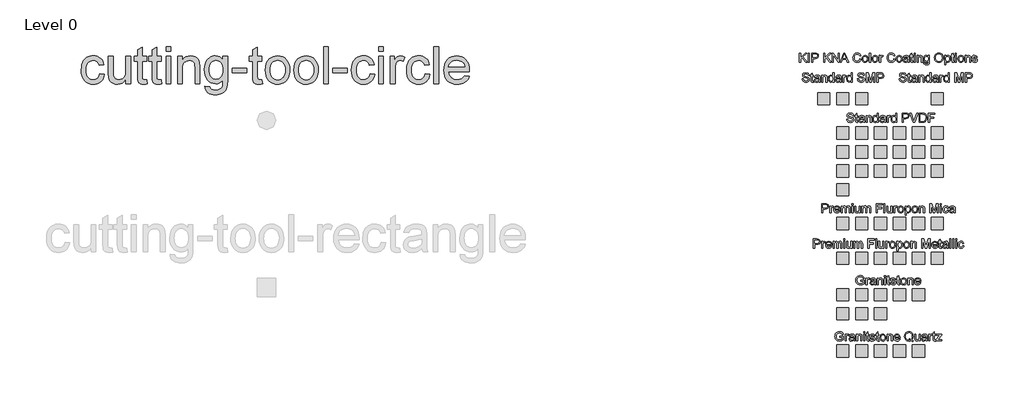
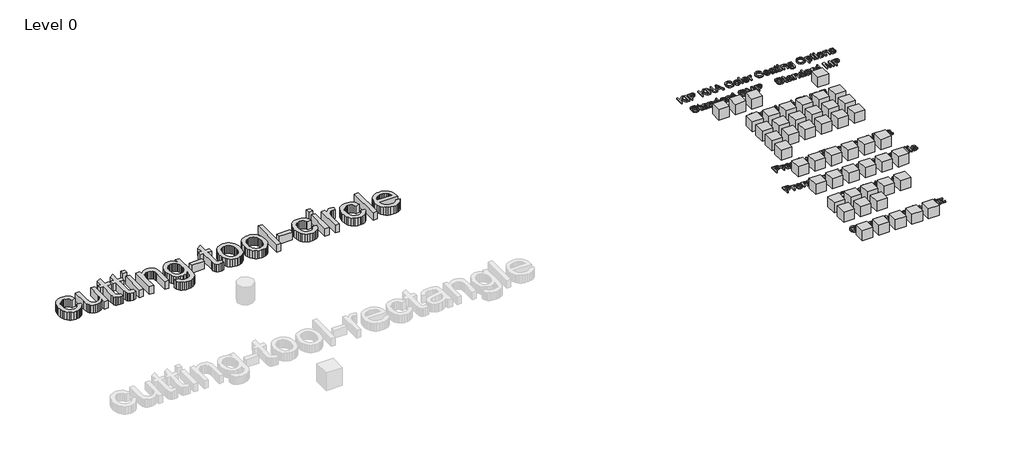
# One storey, part 5 of 5: 50 proxies.
"""IFC4 building model written with IfcOpenShell, lengths in millimetres."""

from ifc_helpers import new_model, si_unit, origin, origin_with_axes, place, context, project, spatial, polyline, outline, extrude, transform, mapped, element, save
from components import kna_color_range_kingspan_quadcore_4278cd54, kna_color_range_kingspan_quadcore_c5814d20, kna_color_range_kingspan_quadcore_91b79b7c, ks_color_sample_ks_color_sample_0243efec

model = new_model("IFC4")

# Units and contexts
model_context = context("Model", 3, world=origin())
ifc_project = project(units=[si_unit("LENGTHUNIT", "METRE", prefix="MILLI")], contexts=[model_context])

# Site, building, storey
site = spatial("IfcSite", under=ifc_project)
building = spatial("IfcBuilding", under=site)
storey = spatial("IfcBuildingStorey", under=building, Name="Level 0", Elevation=0.0)

# Proxies
placement = place(None, origin())
element("IfcBuildingElementProxy", 1, Name="24\" Arial", ObjectType="24\" Arial", at=placement, inside=storey, context=model_context, shape_type="SweptSolid", body=[
    extrude(outline(polyline([(309.6160228, 14049.1798654), (385.7577963, 14039.6621437), (377.4762631, 14003.7336738), (364.5288155, 13971.9413232), (346.9154536, 13944.2850918), (324.6361773, 13920.7649798), (298.6297464, 13901.9944339), (269.8349204, 13888.5869012), (238.2516994, 13880.5423815), (203.8800834, 13877.860875), (161.1758136, 13881.6019717), (122.8865025, 13892.8252616), (89.0121503, 13911.5307449), (59.5527568, 13937.7184216), (35.707332, 13970.895675), (18.6748858, 14010.5698889), (8.455418, 14056.7410633), (5.0489287, 14109.409198), (10.8673797, 14177.1671971), (18.1404434, 14207.6582967), (28.3227325, 14235.8907964), (41.4839571, 14261.2977224), (57.6938268, 14283.3121011), (76.9523418, 14301.9339326), (99.259502, 14317.1632167), (123.6068379, 14329.0046009), (148.98588, 14337.4627325), (175.3966282, 14342.5376115), (202.8390826, 14344.2292378), (236.6204883, 14341.9055753), (267.1766505, 14334.9345877), (294.5075691, 14323.3162751), (318.6132441, 14307.0506374), (339.0847109, 14286.5094607), (355.5130049, 14262.064531), (367.8981262, 14233.7158482), (376.2400746, 14201.4634124), (300.0983011, 14191.9456908), (286.2864511, 14225.1647702), (264.7786308, 14248.9776637), (236.7645554, 14263.3100141), (203.4339402, 14268.0874643), (177.5622817, 14265.7359178), (154.2280626, 14258.6812784), (133.4312831, 14246.923546), (115.171943, 14230.4627207), (100.3051501, 14208.9177218), (89.6860124, 14181.9074687), (83.3145298, 14149.4319613), (81.1907022, 14111.4911996), (83.2680565, 14072.978817), (89.5001194, 14040.1268762), (99.8868909, 14012.9353774), (114.428371, 13991.4043205), (132.3252197, 13975.041089), (152.7780972, 13963.3530665), (175.7870035, 13956.340253), (201.3519386, 13954.0026485), (240.7798442, 13959.8396888), (257.8308798, 13967.1359891), (273.1066373, 13977.3508095), (286.1795626, 13990.5956859), (296.622102, 14006.982154), (304.4342554, 14026.5102138), (309.6160228, 14049.1798654)])), origin_with_axes(), (0.0, 0.0, 1.0), 152.4),
    extrude(outline(polyline([(737.9134988, 13887.3785967), (737.9134988, 13964.2639422), (710.364156, 13926.4626003), (678.2790239, 13899.4616418), (641.6581025, 13883.2610667), (600.5013919, 13877.860875), (563.4157381, 13881.6530922), (528.8954077, 13893.0297439), (499.933278, 13910.1319001), (479.5222264, 13931.1006307), (465.7847336, 13956.5679719), (456.8432802, 13987.16596), (452.3818481, 14057.9540151), (452.3818481, 14334.7115161), (528.5236217, 14334.7115161), (528.5236217, 14093.7941858), (529.6761583, 14045.6107198), (533.1337681, 14016.1652683), (544.2315803, 13990.2703732), (563.2484344, 13970.5843043), (588.9202579, 13958.1480625), (619.9829785, 13954.0026485), (652.8302719, 13958.241009), (683.5583851, 13970.9560903), (708.8956013, 13990.9767666), (725.5702035, 14017.1319119), (734.827675, 14052.9534933), (737.9134988, 14101.9734779), (737.9134988, 14334.7115161), (814.0552723, 14334.7115161), (814.0552723, 13887.3785967), (737.9134988, 13887.3785967)])), origin_with_axes(), (0.0, 0.0, 1.0), 152.4),
    extrude(outline(polyline([(1080.5514797, 13950.8796461), (1090.0692013, 13885.1478807), (1059.9173565, 13879.6826264), (1033.1115856, 13877.860875), (996.5650215, 13881.021056), (969.3131074, 13890.5015991), (950.0545924, 13905.1127891), (937.4882255, 13923.6649106), (930.5730058, 13955.5269711), (928.2679326, 14010.0679778), (928.2679326, 14258.5697426), (871.1616025, 14258.5697426), (871.1616025, 14334.7115161), (928.2679326, 14334.7115161), (928.2679326, 14443.4217435), (1004.4097061, 14488.1847783), (1004.4097061, 14334.7115161), (1080.5514797, 14334.7115161), (1080.5514797, 14258.5697426), (1004.4097061, 14258.5697426), (1004.4097061, 14012.2986939), (1008.424995, 13973.0380919), (1021.4375051, 13959.1332954), (1032.4237815, 13955.2853102), (1047.3881681, 13954.0026485), (1080.5514797, 13950.8796461)])), origin_with_axes(), (0.0, 0.0, 1.0), 152.4),
    extrude(outline(polyline([(1318.4945219, 13950.8796461), (1328.0122436, 13885.1478807), (1297.8603987, 13879.6826264), (1271.0546278, 13877.860875), (1234.5080637, 13881.021056), (1207.2561496, 13890.5015991), (1187.9976347, 13905.1127891), (1175.4312677, 13923.6649106), (1168.5160481, 13955.5269711), (1166.2109749, 14010.0679778), (1166.2109749, 14258.5697426), (1109.1046447, 14258.5697426), (1109.1046447, 14334.7115161), (1166.2109749, 14334.7115161), (1166.2109749, 14443.4217435), (1242.3527484, 14488.1847783), (1242.3527484, 14334.7115161), (1318.4945219, 14334.7115161), (1318.4945219, 14258.5697426), (1242.3527484, 14258.5697426), (1242.3527484, 14012.2986939), (1246.3680372, 13973.0380919), (1259.3805473, 13959.1332954), (1270.3668237, 13955.2853102), (1285.3312104, 13954.0026485), (1318.4945219, 13950.8796461)])), origin_with_axes(), (0.0, 0.0, 1.0), 152.4),
    extrude(outline(polyline([(1394.6362954, 14420.3710113), (1394.6362954, 14496.5127848), (1470.7780689, 14496.5127848), (1470.7780689, 14420.3710113), (1394.6362954, 14420.3710113)])), origin_with_axes(), (0.0, 0.0, 1.0), 152.4),
    extrude(outline(polyline([(1394.6362954, 13887.3785967), (1394.6362954, 14334.7115161), (1470.7780689, 14334.7115161), (1470.7780689, 13887.3785967), (1394.6362954, 13887.3785967)])), origin_with_axes(), (0.0, 0.0, 1.0), 152.4),
    extrude(outline(polyline([(1584.9907292, 13887.3785967), (1584.9907292, 14334.7115161), (1661.1325027, 14334.7115161), (1661.1325027, 14272.2514675), (1687.5850769, 14303.741742), (1719.3541909, 14326.2347952), (1756.4398447, 14339.7306271), (1798.8420384, 14344.2292378), (1836.3738355, 14340.6043243), (1870.7454515, 14329.7295837), (1899.4101524, 14312.9620349), (1919.821204, 14291.6586969), (1933.6702326, 14265.8753376), (1942.6488646, 14235.6677248), (1946.6641534, 14162.0540961), (1946.6641534, 13887.3785967), (1870.5223799, 13887.3785967), (1870.5223799, 14151.7928024), (1868.3288425, 14191.1649401), (1861.7482302, 14219.1604262), (1849.6094172, 14239.2182811), (1830.7412775, 14254.7775253), (1806.556598, 14264.7599795), (1778.4681654, 14268.0874643), (1755.3477233, 14266.2192396), (1733.8724343, 14260.6145656), (1714.0422983, 14251.2734423), (1695.8573154, 14238.1958696), (1680.6652099, 14219.8947036), (1669.8137059, 14194.8828002), (1663.3028035, 14163.1601594), (1661.1325027, 14124.7267813), (1661.1325027, 13887.3785967), (1584.9907292, 13887.3785967)])), origin_with_axes(), (0.0, 0.0, 1.0), 152.4),
    extrude(outline(polyline([(2032.3236486, 13849.3077099), (2108.4654221, 13839.7899882), (2116.8677858, 13815.995684), (2133.1520128, 13799.6370999), (2165.1627877, 13786.9220185), (2207.0630703, 13782.6836581), (2251.7517479, 13787.4796975), (2269.8019584, 13793.4747469), (2284.9894166, 13801.8678159), (2308.0401488, 13824.9185481), (2322.1680169, 13855.7024292), (2326.2948416, 13888.4567761), (2327.373021, 13944.4849268), (2302.0358049, 13919.5009074), (2273.7614793, 13901.6551792), (2242.5500443, 13890.9477423), (2208.4014999, 13887.3785967), (2166.654579, 13891.5333053), (2129.8988852, 13903.997431), (2098.1344186, 13924.770974), (2071.361179, 13953.8539341), (2050.1182562, 13988.7460505), (2034.9447399, 14026.9470624), (2025.8406302, 14068.4569697), (2022.8059269, 14113.2757724), (2028.2525919, 14174.7505881), (2044.5925867, 14231.2806499), (2056.7035158, 14256.7712278), (2071.2496432, 14279.1852765), (2088.2309689, 14298.522796), (2107.6474929, 14314.7837863), (2129.1878445, 14327.6661713), (2152.5406529, 14336.8678749), (2177.705918, 14342.3888971), (2204.6836398, 14344.2292378), (2240.2914443, 14340.0652346), (2272.6089427, 14327.5732248), (2301.6361349, 14306.7532086), (2327.373021, 14277.605186), (2327.373021, 14334.7115161), (2403.5147945, 14334.7115161), (2403.5147945, 13948.5002157), (2398.3097905, 13859.3273427), (2391.8035354, 13826.1593839), (2382.6947783, 13800.6037435), (2370.7650949, 13779.9928569), (2355.796061, 13761.6591596), (2337.7876764, 13745.6026516), (2316.7399413, 13731.8233328), (2292.8666325, 13720.7626992), (2266.3815271, 13712.8622466), (2237.284625, 13708.1219751), (2205.5759262, 13706.5418846), (2168.2718481, 13708.7679533), (2134.7321033, 13715.4461594), (2104.9566917, 13726.5765028), (2078.9456135, 13742.1589837), (2057.9350569, 13762.2121913), (2043.1612106, 13786.7547148), (2034.6240745, 13815.7865544), (2032.3236486, 13849.3077099)]), holes=[polyline([(2098.9477004, 14118.4807765), (2100.9785815, 14080.8327963), (2107.0712246, 14048.6407757), (2117.2256298, 14021.9047147), (2131.4417972, 14000.6246134), (2148.725199, 13984.391507), (2168.0813078, 13972.796431), (2189.5101236, 13965.8393854), (2213.0116463, 13963.5203702), (2236.2808028, 13965.8254434), (2257.6073774, 13972.7406631), (2276.9913702, 13984.2660292), (2294.4327811, 14000.4015418), (2308.844136, 14021.4725135), (2319.137961, 14047.8042572), (2325.314256, 14079.3967728), (2327.373021, 14116.2500604), (2325.2538408, 14151.5650834), (2318.8963001, 14182.2606654), (2308.300399, 14208.3368062), (2293.4661375, 14229.7935059), (2275.6482933, 14246.5471127), (2256.1016441, 14258.5139747), (2234.8261901, 14265.6940919), (2211.8219311, 14268.0874643), (2189.2034001, 14265.7312705), (2168.341558, 14258.6626891), (2149.2364047, 14246.8817201), (2131.8879404, 14230.3883635), (2117.4765854, 14209.2569765), (2107.1827604, 14183.5619164), (2101.0064654, 14153.303183), (2098.9477004, 14118.4807765)])]), origin_with_axes(), (0.0, 0.0, 1.0), 152.4),
    extrude(outline(polyline([(2479.656568, 14068.2153088), (2479.656568, 14144.3570823), (2717.5996103, 14144.3570823), (2717.5996103, 14068.2153088), (2479.656568, 14068.2153088)])), origin_with_axes(), (0.0, 0.0, 1.0), 152.4),
    extrude(outline(polyline([(2965.0603742, 13950.8796461), (2974.5780959, 13885.1478807), (2944.426251, 13879.6826264), (2917.6204802, 13877.860875), (2881.073916, 13881.021056), (2853.822002, 13890.5015991), (2834.563487, 13905.1127891), (2821.9971201, 13923.6649106), (2815.0819004, 13955.5269711), (2812.7768272, 14010.0679778), (2812.7768272, 14258.5697426), (2755.670497, 14258.5697426), (2755.670497, 14334.7115161), (2812.7768272, 14334.7115161), (2812.7768272, 14443.4217435), (2888.9186007, 14488.1847783), (2888.9186007, 14334.7115161), (2965.0603742, 14334.7115161), (2965.0603742, 14258.5697426), (2888.9186007, 14258.5697426), (2888.9186007, 14012.2986939), (2892.9338895, 13973.0380919), (2905.9463996, 13959.1332954), (2916.932676, 13955.2853102), (2931.8970627, 13954.0026485), (2965.0603742, 13950.8796461)])), origin_with_axes(), (0.0, 0.0, 1.0), 152.4),
    extrude(outline(polyline([(3022.1667043, 14111.0450564), (3026.2842343, 14168.9786104), (3038.6368243, 14218.900176), (3059.2244742, 14260.8097533), (3088.0471842, 14294.7073421), (3117.0650817, 14316.3731715), (3149.0944459, 14331.8487639), (3184.1352768, 14341.1341193), (3222.1875742, 14344.2292378), (3264.1947453, 14340.4602572), (3302.1773329, 14329.1533153), (3336.135337, 14310.3084123), (3366.0687576, 14283.925548), (3390.4997453, 14250.8970089), (3407.9504509, 14212.1150814), (3418.4208742, 14167.5797656), (3421.9110153, 14117.2910613), (3420.3681034, 14076.5340206), (3415.7393676, 14040.3685371), (3408.0248081, 14008.7946108), (3397.2244247, 13981.8122416), (3383.4729899, 13958.5059065), (3366.9052761, 13937.9600825), (3347.5212833, 13920.1747695), (3325.3210116, 13905.1499677), (3301.1688633, 13893.2109896), (3275.929241, 13884.6831482), (3249.6021447, 13879.5664433), (3222.1875742, 13877.860875), (3179.5669562, 13881.6159136), (3141.231172, 13892.8810295), (3107.1802214, 13911.6562227), (3077.4141045, 13937.9414932), (3053.2433669, 13971.2906977), (3035.9785544, 14011.2576931), (3025.6196668, 14057.8424793), (3022.1667043, 14111.0450564)]), holes=[polyline([(3098.3084779, 14111.1937708), (3100.5113099, 14074.2614787), (3107.1198061, 14042.283235), (3118.1339665, 14015.2590399), (3133.553791, 13993.1888933), (3152.3103949, 13976.0449112), (3173.3348934, 13963.7992097), (3196.6272865, 13956.4517888), (3222.1875742, 13954.0026485), (3247.6177369, 13956.4657308), (3270.8171835, 13963.8549776), (3291.7859141, 13976.170389), (3310.5239287, 13993.4119649), (3325.9437532, 14015.7005358), (3336.9579135, 14043.1569322), (3343.5664097, 14075.781154), (3345.7692418, 14113.5732012), (3343.5524677, 14149.3343674), (3336.9021456, 14180.4760925), (3325.8182754, 14206.9983766), (3310.3008571, 14228.9012195), (3291.4931326, 14246.0452016), (3270.538344, 14258.2909031), (3247.4364912, 14265.638324), (3222.1875742, 14268.0874643), (3196.6272865, 14265.6476186), (3173.3348934, 14258.3280817), (3152.3103949, 14246.1288534), (3133.553791, 14229.0499339), (3118.1339665, 14207.0448498), (3107.1198061, 14180.0671279), (3100.5113099, 14148.1167683), (3098.3084779, 14111.1937708)])]), origin_with_axes(), (0.0, 0.0, 1.0), 152.4),
    extrude(outline(polyline([(3488.5350671, 14111.0450564), (3492.6525971, 14168.9786104), (3505.0051871, 14218.900176), (3525.592837, 14260.8097533), (3554.415547, 14294.7073421), (3583.4334445, 14316.3731715), (3615.4628087, 14331.8487639), (3650.5036396, 14341.1341193), (3688.555937, 14344.2292378), (3730.5631081, 14340.4602572), (3768.5456957, 14329.1533153), (3802.5036998, 14310.3084123), (3832.4371204, 14283.925548), (3856.8681081, 14250.8970089), (3874.3188137, 14212.1150814), (3884.789237, 14167.5797656), (3888.2793781, 14117.2910613), (3886.7364662, 14076.5340206), (3882.1077304, 14040.3685371), (3874.3931709, 14008.7946108), (3863.5927875, 13981.8122416), (3849.8413527, 13958.5059065), (3833.2736389, 13937.9600825), (3813.8896461, 13920.1747695), (3791.6893744, 13905.1499677), (3767.5372261, 13893.2109896), (3742.2976038, 13884.6831482), (3715.9705074, 13879.5664433), (3688.555937, 13877.860875), (3645.935319, 13881.6159136), (3607.5995348, 13892.8810295), (3573.5485842, 13911.6562227), (3543.7824673, 13937.9414932), (3519.6117297, 13971.2906977), (3502.3469172, 14011.2576931), (3491.9880296, 14057.8424793), (3488.5350671, 14111.0450564)]), holes=[polyline([(3564.6768406, 14111.1937708), (3566.8796727, 14074.2614787), (3573.4881689, 14042.283235), (3584.5023293, 14015.2590399), (3599.9221538, 13993.1888933), (3618.6787577, 13976.0449112), (3639.7032562, 13963.7992097), (3662.9956493, 13956.4517888), (3688.555937, 13954.0026485), (3713.9860997, 13956.4657308), (3737.1855463, 13963.8549776), (3758.1542769, 13976.170389), (3776.8922914, 13993.4119649), (3792.3121159, 14015.7005358), (3803.3262763, 14043.1569322), (3809.9347725, 14075.781154), (3812.1376046, 14113.5732012), (3809.9208305, 14149.3343674), (3803.2705084, 14180.4760925), (3792.1866382, 14206.9983766), (3776.6692198, 14228.9012195), (3757.8614954, 14246.0452016), (3736.9067068, 14258.2909031), (3713.804854, 14265.638324), (3688.555937, 14268.0874643), (3662.9956493, 14265.6476186), (3639.7032562, 14258.3280817), (3618.6787577, 14246.1288534), (3599.9221538, 14229.0499339), (3584.5023293, 14207.0448498), (3573.4881689, 14180.0671279), (3566.8796727, 14148.1167683), (3564.6768406, 14111.1937708)])]), origin_with_axes(), (0.0, 0.0, 1.0), 152.4),
    extrude(outline(polyline([(3973.9388733, 13887.3785967), (3973.9388733, 14496.5127848), (4050.0806468, 14496.5127848), (4050.0806468, 13887.3785967), (3973.9388733, 13887.3785967)])), origin_with_axes(), (0.0, 0.0, 1.0), 152.4),
    extrude(outline(polyline([(4126.2224203, 14068.2153088), (4126.2224203, 14144.3570823), (4364.1654626, 14144.3570823), (4364.1654626, 14068.2153088), (4126.2224203, 14068.2153088)])), origin_with_axes(), (0.0, 0.0, 1.0), 152.4),
    extrude(outline(polyline([(4735.3566085, 14049.1798654), (4811.498382, 14039.6621437), (4803.2168488, 14003.7336738), (4790.2694012, 13971.9413232), (4772.6560393, 13944.2850918), (4750.376763, 13920.7649798), (4724.3703321, 13901.9944339), (4695.5755061, 13888.5869012), (4663.9922851, 13880.5423815), (4629.6206691, 13877.860875), (4586.9163993, 13881.6019717), (4548.6270882, 13892.8252616), (4514.752736, 13911.5307449), (4485.2933425, 13937.7184216), (4461.4479177, 13970.895675), (4444.4154714, 14010.5698889), (4434.1960037, 14056.7410633), (4430.7895144, 14109.409198), (4436.6079654, 14177.1671971), (4443.8810291, 14207.6582967), (4454.0633182, 14235.8907964), (4467.2245427, 14261.2977224), (4483.4344125, 14283.3121011), (4502.6929275, 14301.9339326), (4525.0000877, 14317.1632167), (4549.3474236, 14329.0046009), (4574.7264657, 14337.4627325), (4601.1372139, 14342.5376115), (4628.5796683, 14344.2292378), (4662.361074, 14341.9055753), (4692.9172362, 14334.9345877), (4720.2481548, 14323.3162751), (4744.3538298, 14307.0506374), (4764.8252966, 14286.5094607), (4781.2535906, 14262.064531), (4793.6387118, 14233.7158482), (4801.9806603, 14201.4634124), (4725.8388868, 14191.9456908), (4712.0270368, 14225.1647702), (4690.5192165, 14248.9776637), (4662.5051411, 14263.3100141), (4629.1745259, 14268.0874643), (4603.3028674, 14265.7359178), (4579.9686483, 14258.6812784), (4559.1718687, 14246.923546), (4540.9125286, 14230.4627207), (4526.0457358, 14208.9177218), (4515.4265981, 14181.9074687), (4509.0551155, 14149.4319613), (4506.9312879, 14111.4911996), (4509.0086422, 14072.978817), (4515.2407051, 14040.1268762), (4525.6274766, 14012.9353774), (4540.1689566, 13991.4043205), (4558.0658054, 13975.041089), (4578.5186829, 13963.3530665), (4601.5275892, 13956.340253), (4627.0925243, 13954.0026485), (4666.5204299, 13959.8396888), (4683.5714655, 13967.1359891), (4698.8472229, 13977.3508095), (4711.9201483, 13990.5956859), (4722.3626877, 14006.982154), (4730.1748411, 14026.5102138), (4735.3566085, 14049.1798654)])), origin_with_axes(), (0.0, 0.0, 1.0), 152.4),
    extrude(outline(polyline([(4878.1224338, 14420.3710113), (4878.1224338, 14496.5127848), (4954.2642073, 14496.5127848), (4954.2642073, 14420.3710113), (4878.1224338, 14420.3710113)])), origin_with_axes(), (0.0, 0.0, 1.0), 152.4),
    extrude(outline(polyline([(4878.1224338, 13887.3785967), (4878.1224338, 14334.7115161), (4954.2642073, 14334.7115161), (4954.2642073, 13887.3785967), (4878.1224338, 13887.3785967)])), origin_with_axes(), (0.0, 0.0, 1.0), 152.4),
    extrude(outline(polyline([(5068.4768676, 13887.3785967), (5068.4768676, 14334.7115161), (5135.1009194, 14334.7115161), (5135.1009194, 14268.5336075), (5159.7131529, 14306.901923), (5182.3920991, 14329.5065121), (5205.1454025, 14340.5485564), (5229.9807075, 14344.2292378), (5267.9028799, 14338.3550189), (5306.4199099, 14320.7323624), (5280.9897472, 14252.4724521), (5254.221155, 14264.1837112), (5227.4525627, 14268.0874643), (5204.7178486, 14264.3324256), (5184.3997435, 14253.0673097), (5167.9853914, 14235.1472244), (5156.9619364, 14211.4272773), (5147.704465, 14168.8949585), (5144.6186411, 14122.4960653), (5144.6186411, 13887.3785967), (5068.4768676, 13887.3785967)])), origin_with_axes(), (0.0, 0.0, 1.0), 152.4),
    extrude(outline(polyline([(5639.540169, 14049.1798654), (5715.6819425, 14039.6621437), (5707.4004093, 14003.7336738), (5694.4529617, 13971.9413232), (5676.8395998, 13944.2850918), (5654.5603235, 13920.7649798), (5628.5538926, 13901.9944339), (5599.7590666, 13888.5869012), (5568.1758456, 13880.5423815), (5533.8042296, 13877.860875), (5491.0999598, 13881.6019717), (5452.8106487, 13892.8252616), (5418.9362965, 13911.5307449), (5389.476903, 13937.7184216), (5365.6314782, 13970.895675), (5348.5990319, 14010.5698889), (5338.3795642, 14056.7410633), (5334.9730749, 14109.409198), (5340.7915259, 14177.1671971), (5348.0645896, 14207.6582967), (5358.2468787, 14235.8907964), (5371.4081033, 14261.2977224), (5387.617973, 14283.3121011), (5406.876488, 14301.9339326), (5429.1836482, 14317.1632167), (5453.5309841, 14329.0046009), (5478.9100262, 14337.4627325), (5505.3207744, 14342.5376115), (5532.7632288, 14344.2292378), (5566.5446345, 14341.9055753), (5597.1007967, 14334.9345877), (5624.4317153, 14323.3162751), (5648.5373903, 14307.0506374), (5669.0088571, 14286.5094607), (5685.4371511, 14262.064531), (5697.8222724, 14233.7158482), (5706.1642208, 14201.4634124), (5630.0224473, 14191.9456908), (5616.2105973, 14225.1647702), (5594.702777, 14248.9776637), (5566.6887016, 14263.3100141), (5533.3580864, 14268.0874643), (5507.4864279, 14265.7359178), (5484.1522088, 14258.6812784), (5463.3554293, 14246.923546), (5445.0960892, 14230.4627207), (5430.2292963, 14208.9177218), (5419.6101586, 14181.9074687), (5413.238676, 14149.4319613), (5411.1148484, 14111.4911996), (5413.1922027, 14072.978817), (5419.4242656, 14040.1268762), (5429.8110371, 14012.9353774), (5444.3525172, 13991.4043205), (5462.2493659, 13975.041089), (5482.7022434, 13963.3530665), (5505.7111497, 13956.340253), (5531.2760848, 13954.0026485), (5570.7039904, 13959.8396888), (5587.755026, 13967.1359891), (5603.0307834, 13977.3508095), (5616.1037088, 13990.5956859), (5626.5462482, 14006.982154), (5634.3584016, 14026.5102138), (5639.540169, 14049.1798654)])), origin_with_axes(), (0.0, 0.0, 1.0), 152.4),
    extrude(outline(polyline([(5782.3059943, 13887.3785967), (5782.3059943, 14496.5127848), (5858.4477679, 14496.5127848), (5858.4477679, 13887.3785967), (5782.3059943, 13887.3785967)])), origin_with_axes(), (0.0, 0.0, 1.0), 152.4),
    extrude(outline(polyline([(6285.8529575, 14020.6267003), (6360.507587, 14011.1089787), (6349.0612254, 13981.2080893), (6333.6088696, 13954.8577563), (6314.1505197, 13932.0579797), (6290.6861755, 13912.8087593), (6263.4574981, 13897.5190599), (6232.7061483, 13886.5978461), (6198.4321261, 13880.0451178), (6160.6354315, 13877.860875), (6113.3907251, 13881.6298556), (6071.2952549, 13892.9367974), (6034.3490208, 13911.7817005), (6002.5520228, 13938.1645648), (5976.9824404, 13971.3511129), (5958.718453, 14010.6070675), (5947.7600605, 14055.9324287), (5944.1072631, 14107.3271964), (5947.7972391, 14160.4647109), (5958.8671674, 14207.3004527), (5977.3170478, 14247.8344217), (6003.1468804, 14282.066618), (6034.8602265, 14309.2627642), (6070.9606475, 14328.6885828), (6111.4481432, 14340.3440741), (6156.3227139, 14344.2292378), (6199.7519664, 14340.3533687), (6239.0265103, 14328.7257614), (6274.1463457, 14309.346416), (6305.1114725, 14282.2153324), (6330.3882734, 14248.0574933), (6348.4431312, 14207.5978815), (6359.2760458, 14160.8364969), (6362.8870174, 14107.7733396), (6362.4408742, 14087.2507522), (6020.2490366, 14087.2507522), (6024.659348, 14056.866541), (6033.4288504, 14030.2559578), (6046.5575436, 14007.4190026), (6064.0454278, 13988.3556752), (6084.9258592, 13973.326226), (6108.2321943, 13962.5909052), (6133.9644331, 13956.1497127), (6162.1225755, 13954.0026485), (6202.6472499, 13957.9807588), (6236.777205, 13969.9150895), (6264.5124409, 13990.5492127), (6285.8529575, 14020.6267003)]), holes=[polyline([(6020.2490366, 14163.3925257), (6286.7452439, 14163.3925257), (6276.4467716, 14203.6197713), (6267.5889701, 14219.4392657), (6256.2587916, 14232.3960079), (6235.4945433, 14248.0110201), (6211.8675428, 14259.1646002), (6185.37779, 14265.8567483), (6156.0252851, 14268.0874643), (6129.2520455, 14266.3075388), (6104.7002273, 14260.9677623), (6082.3698304, 14252.0681348), (6062.260855, 14239.6086564), (6045.3864177, 14224.1655953), (6032.7596356, 14206.3152198), (6024.3805085, 14186.0575299), (6020.2490366, 14163.3925257)])]), origin_with_axes(), (0.0, 0.0, 1.0), 152.4),
])
kna_color_range_kingspan_quadcore_shape = kna_color_range_kingspan_quadcore_4278cd54(model_context)
kna_color_range_kingspan_quadcore_2_shape = kna_color_range_kingspan_quadcore_c5814d20(model_context)
kna_color_range_kingspan_quadcore_3_shape = kna_color_range_kingspan_quadcore_91b79b7c(model_context)
element("IfcBuildingElementProxy", 2, Name="KNA_Color Range : Kingspan Quadcore", ObjectType="KNA_Color Range : Kingspan Quadcore", at=placement, inside=storey, context=model_context, shape_type="MappedRepresentation", body=[
    mapped(kna_color_range_kingspan_quadcore_shape, transform((13221.5853815, 13539.2290821, 0.0), x_axis=(1.0, 0.0, 0.0), y_axis=(0.0, 1.0, 0.0), z_axis=(0.0, 0.0, 1.0))),
    mapped(kna_color_range_kingspan_quadcore_2_shape, transform((13221.5853815, 13539.2290821, 0.0), x_axis=(1.0, 0.0, 0.0), y_axis=(0.0, 1.0, 0.0), z_axis=(0.0, 0.0, 1.0))),
    mapped(kna_color_range_kingspan_quadcore_3_shape, transform((13221.5853815, 13539.2290821, 0.0), x_axis=(1.0, 0.0, 0.0), y_axis=(0.0, 1.0, 0.0), z_axis=(0.0, 0.0, 1.0))),
])
ks_color_sample_ks_color_sample_shape = ks_color_sample_ks_color_sample_0243efec(model_context)
element("IfcBuildingElementProxy", 3, Name="KS_Color Sample : KS_Color Sample", ObjectType="KS_Color Sample : KS_Color Sample", at=placement, inside=storey, context=model_context, shape_type="MappedRepresentation", body=[
    mapped(ks_color_sample_ks_color_sample_shape, transform((12166.5853815, 13639.2290821, 0.0), x_axis=(1.0, 0.0, 0.0), y_axis=(0.0, 1.0, 0.0), z_axis=(0.0, 0.0, 1.0))),
])
element("IfcBuildingElementProxy", 4, Name="KS_Color Sample : KS_Color Sample", ObjectType="KS_Color Sample : KS_Color Sample", at=placement, inside=storey, context=model_context, shape_type="MappedRepresentation", body=[
    mapped(ks_color_sample_ks_color_sample_shape, transform((12476.5853815, 13639.2290821, 0.0), x_axis=(1.0, 0.0, 0.0), y_axis=(0.0, 1.0, 0.0), z_axis=(0.0, 0.0, 1.0))),
])
element("IfcBuildingElementProxy", 5, Name="KS_Color Sample : KS_Color Sample", ObjectType="KS_Color Sample : KS_Color Sample", at=placement, inside=storey, context=model_context, shape_type="MappedRepresentation", body=[
    mapped(ks_color_sample_ks_color_sample_shape, transform((12786.5853815, 13639.2290821, 0.0), x_axis=(1.0, 0.0, 0.0), y_axis=(0.0, 1.0, 0.0), z_axis=(0.0, 0.0, 1.0))),
])
element("IfcBuildingElementProxy", 6, Name="KS_Color Sample : KS_Color Sample", ObjectType="KS_Color Sample : KS_Color Sample", at=placement, inside=storey, context=model_context, shape_type="MappedRepresentation", body=[
    mapped(ks_color_sample_ks_color_sample_shape, transform((14026.5853815, 13639.2290821, 0.0), x_axis=(1.0, 0.0, 0.0), y_axis=(0.0, 1.0, 0.0), z_axis=(0.0, 0.0, 1.0))),
])
element("IfcBuildingElementProxy", 7, Name="KS_Color Sample : KS_Color Sample", ObjectType="KS_Color Sample : KS_Color Sample", at=placement, inside=storey, context=model_context, shape_type="MappedRepresentation", body=[
    mapped(ks_color_sample_ks_color_sample_shape, transform((12786.5853815, 13079.2290821, 0.0), x_axis=(1.0, 0.0, 0.0), y_axis=(0.0, 1.0, 0.0), z_axis=(0.0, 0.0, 1.0))),
])
element("IfcBuildingElementProxy", 8, Name="KS_Color Sample : KS_Color Sample", ObjectType="KS_Color Sample : KS_Color Sample", at=placement, inside=storey, context=model_context, shape_type="MappedRepresentation", body=[
    mapped(ks_color_sample_ks_color_sample_shape, transform((13096.5853815, 13079.2290821, 0.0), x_axis=(1.0, 0.0, 0.0), y_axis=(0.0, 1.0, 0.0), z_axis=(0.0, 0.0, 1.0))),
])
element("IfcBuildingElementProxy", 9, Name="KS_Color Sample : KS_Color Sample", ObjectType="KS_Color Sample : KS_Color Sample", at=placement, inside=storey, context=model_context, shape_type="MappedRepresentation", body=[
    mapped(ks_color_sample_ks_color_sample_shape, transform((13406.5853815, 13079.2290821, 0.0), x_axis=(1.0, 0.0, 0.0), y_axis=(0.0, 1.0, 0.0), z_axis=(0.0, 0.0, 1.0))),
])
element("IfcBuildingElementProxy", 10, Name="KS_Color Sample : KS_Color Sample", ObjectType="KS_Color Sample : KS_Color Sample", at=placement, inside=storey, context=model_context, shape_type="MappedRepresentation", body=[
    mapped(ks_color_sample_ks_color_sample_shape, transform((13716.5853815, 13079.2290821, 0.0), x_axis=(1.0, 0.0, 0.0), y_axis=(0.0, 1.0, 0.0), z_axis=(0.0, 0.0, 1.0))),
])
element("IfcBuildingElementProxy", 11, Name="KS_Color Sample : KS_Color Sample", ObjectType="KS_Color Sample : KS_Color Sample", at=placement, inside=storey, context=model_context, shape_type="MappedRepresentation", body=[
    mapped(ks_color_sample_ks_color_sample_shape, transform((12476.5853815, 11599.2290821, 0.0), x_axis=(1.0, 0.0, 0.0), y_axis=(0.0, 1.0, 0.0), z_axis=(0.0, 0.0, 1.0))),
])
element("IfcBuildingElementProxy", 12, Name="KS_Color Sample : KS_Color Sample", ObjectType="KS_Color Sample : KS_Color Sample", at=placement, inside=storey, context=model_context, shape_type="MappedRepresentation", body=[
    mapped(ks_color_sample_ks_color_sample_shape, transform((12786.5853815, 11599.2290821, 0.0), x_axis=(1.0, 0.0, 0.0), y_axis=(0.0, 1.0, 0.0), z_axis=(0.0, 0.0, 1.0))),
])
element("IfcBuildingElementProxy", 13, Name="KS_Color Sample : KS_Color Sample", ObjectType="KS_Color Sample : KS_Color Sample", at=placement, inside=storey, context=model_context, shape_type="MappedRepresentation", body=[
    mapped(ks_color_sample_ks_color_sample_shape, transform((13096.5853815, 11599.2290821, 0.0), x_axis=(1.0, 0.0, 0.0), y_axis=(0.0, 1.0, 0.0), z_axis=(0.0, 0.0, 1.0))),
])
element("IfcBuildingElementProxy", 14, Name="KS_Color Sample : KS_Color Sample", ObjectType="KS_Color Sample : KS_Color Sample", at=placement, inside=storey, context=model_context, shape_type="MappedRepresentation", body=[
    mapped(ks_color_sample_ks_color_sample_shape, transform((13406.5853815, 11599.2290821, 0.0), x_axis=(1.0, 0.0, 0.0), y_axis=(0.0, 1.0, 0.0), z_axis=(0.0, 0.0, 1.0))),
])
element("IfcBuildingElementProxy", 15, Name="KS_Color Sample : KS_Color Sample", ObjectType="KS_Color Sample : KS_Color Sample", at=placement, inside=storey, context=model_context, shape_type="MappedRepresentation", body=[
    mapped(ks_color_sample_ks_color_sample_shape, transform((14026.5853815, 13079.2290821, 0.0), x_axis=(1.0, 0.0, 0.0), y_axis=(0.0, 1.0, 0.0), z_axis=(0.0, 0.0, 1.0))),
])
element("IfcBuildingElementProxy", 16, Name="KS_Color Sample : KS_Color Sample", ObjectType="KS_Color Sample : KS_Color Sample", at=placement, inside=storey, context=model_context, shape_type="MappedRepresentation", body=[
    mapped(ks_color_sample_ks_color_sample_shape, transform((13716.5853815, 12769.2290821, 0.0), x_axis=(1.0, 0.0, 0.0), y_axis=(0.0, 1.0, 0.0), z_axis=(0.0, 0.0, 1.0))),
])
element("IfcBuildingElementProxy", 17, Name="KS_Color Sample : KS_Color Sample", ObjectType="KS_Color Sample : KS_Color Sample", at=placement, inside=storey, context=model_context, shape_type="MappedRepresentation", body=[
    mapped(ks_color_sample_ks_color_sample_shape, transform((14026.5853815, 12769.2290821, 0.0), x_axis=(1.0, 0.0, 0.0), y_axis=(0.0, 1.0, 0.0), z_axis=(0.0, 0.0, 1.0))),
])
element("IfcBuildingElementProxy", 18, Name="KS_Color Sample : KS_Color Sample", ObjectType="KS_Color Sample : KS_Color Sample", at=placement, inside=storey, context=model_context, shape_type="MappedRepresentation", body=[
    mapped(ks_color_sample_ks_color_sample_shape, transform((12476.5853815, 12769.2290821, 0.0), x_axis=(1.0, 0.0, 0.0), y_axis=(0.0, 1.0, 0.0), z_axis=(0.0, 0.0, 1.0))),
])
element("IfcBuildingElementProxy", 19, Name="KS_Color Sample : KS_Color Sample", ObjectType="KS_Color Sample : KS_Color Sample", at=placement, inside=storey, context=model_context, shape_type="MappedRepresentation", body=[
    mapped(ks_color_sample_ks_color_sample_shape, transform((13096.5853815, 12769.2290821, 0.0), x_axis=(1.0, 0.0, 0.0), y_axis=(0.0, 1.0, 0.0), z_axis=(0.0, 0.0, 1.0))),
])
element("IfcBuildingElementProxy", 20, Name="KS_Color Sample : KS_Color Sample", ObjectType="KS_Color Sample : KS_Color Sample", at=placement, inside=storey, context=model_context, shape_type="MappedRepresentation", body=[
    mapped(ks_color_sample_ks_color_sample_shape, transform((13406.5853815, 12769.2290821, 0.0), x_axis=(1.0, 0.0, 0.0), y_axis=(0.0, 1.0, 0.0), z_axis=(0.0, 0.0, 1.0))),
])
element("IfcBuildingElementProxy", 21, Name="KS_Color Sample : KS_Color Sample", ObjectType="KS_Color Sample : KS_Color Sample", at=placement, inside=storey, context=model_context, shape_type="MappedRepresentation", body=[
    mapped(ks_color_sample_ks_color_sample_shape, transform((12476.5853815, 12459.2290821, 0.0), x_axis=(1.0, 0.0, 0.0), y_axis=(0.0, 1.0, 0.0), z_axis=(0.0, 0.0, 1.0))),
])
element("IfcBuildingElementProxy", 22, Name="KS_Color Sample : KS_Color Sample", ObjectType="KS_Color Sample : KS_Color Sample", at=placement, inside=storey, context=model_context, shape_type="MappedRepresentation", body=[
    mapped(ks_color_sample_ks_color_sample_shape, transform((12786.5853815, 12459.2290821, 0.0), x_axis=(1.0, 0.0, 0.0), y_axis=(0.0, 1.0, 0.0), z_axis=(0.0, 0.0, 1.0))),
])
element("IfcBuildingElementProxy", 23, Name="KS_Color Sample : KS_Color Sample", ObjectType="KS_Color Sample : KS_Color Sample", at=placement, inside=storey, context=model_context, shape_type="MappedRepresentation", body=[
    mapped(ks_color_sample_ks_color_sample_shape, transform((13096.5853815, 12459.2290821, 0.0), x_axis=(1.0, 0.0, 0.0), y_axis=(0.0, 1.0, 0.0), z_axis=(0.0, 0.0, 1.0))),
])
element("IfcBuildingElementProxy", 24, Name="KS_Color Sample : KS_Color Sample", ObjectType="KS_Color Sample : KS_Color Sample", at=placement, inside=storey, context=model_context, shape_type="MappedRepresentation", body=[
    mapped(ks_color_sample_ks_color_sample_shape, transform((13406.5853815, 12459.2290821, 0.0), x_axis=(1.0, 0.0, 0.0), y_axis=(0.0, 1.0, 0.0), z_axis=(0.0, 0.0, 1.0))),
])
element("IfcBuildingElementProxy", 25, Name="KS_Color Sample : KS_Color Sample", ObjectType="KS_Color Sample : KS_Color Sample", at=placement, inside=storey, context=model_context, shape_type="MappedRepresentation", body=[
    mapped(ks_color_sample_ks_color_sample_shape, transform((13716.5853815, 12459.2290821, 0.0), x_axis=(1.0, 0.0, 0.0), y_axis=(0.0, 1.0, 0.0), z_axis=(0.0, 0.0, 1.0))),
])
element("IfcBuildingElementProxy", 26, Name="KS_Color Sample : KS_Color Sample", ObjectType="KS_Color Sample : KS_Color Sample", at=placement, inside=storey, context=model_context, shape_type="MappedRepresentation", body=[
    mapped(ks_color_sample_ks_color_sample_shape, transform((14026.5853815, 12459.2290821, 0.0), x_axis=(1.0, 0.0, 0.0), y_axis=(0.0, 1.0, 0.0), z_axis=(0.0, 0.0, 1.0))),
])
element("IfcBuildingElementProxy", 27, Name="KS_Color Sample : KS_Color Sample", ObjectType="KS_Color Sample : KS_Color Sample", at=placement, inside=storey, context=model_context, shape_type="MappedRepresentation", body=[
    mapped(ks_color_sample_ks_color_sample_shape, transform((12476.5853815, 12149.2290821, 0.0), x_axis=(1.0, 0.0, 0.0), y_axis=(0.0, 1.0, 0.0), z_axis=(0.0, 0.0, 1.0))),
])
element("IfcBuildingElementProxy", 28, Name="KS_Color Sample : KS_Color Sample", ObjectType="KS_Color Sample : KS_Color Sample", at=placement, inside=storey, context=model_context, shape_type="MappedRepresentation", body=[
    mapped(ks_color_sample_ks_color_sample_shape, transform((13716.5853815, 11599.2290821, 0.0), x_axis=(1.0, 0.0, 0.0), y_axis=(0.0, 1.0, 0.0), z_axis=(0.0, 0.0, 1.0))),
])
element("IfcBuildingElementProxy", 29, Name="KS_Color Sample : KS_Color Sample", ObjectType="KS_Color Sample : KS_Color Sample", at=placement, inside=storey, context=model_context, shape_type="MappedRepresentation", body=[
    mapped(ks_color_sample_ks_color_sample_shape, transform((14026.5853815, 11599.2290821, 0.0), x_axis=(1.0, 0.0, 0.0), y_axis=(0.0, 1.0, 0.0), z_axis=(0.0, 0.0, 1.0))),
])
element("IfcBuildingElementProxy", 30, Name="KS_Color Sample : KS_Color Sample", ObjectType="KS_Color Sample : KS_Color Sample", at=placement, inside=storey, context=model_context, shape_type="MappedRepresentation", body=[
    mapped(ks_color_sample_ks_color_sample_shape, transform((12476.5853815, 11029.2290821, 0.0), x_axis=(1.0, 0.0, 0.0), y_axis=(0.0, 1.0, 0.0), z_axis=(0.0, 0.0, 1.0))),
])
element("IfcBuildingElementProxy", 31, Name="KS_Color Sample : KS_Color Sample", ObjectType="KS_Color Sample : KS_Color Sample", at=placement, inside=storey, context=model_context, shape_type="MappedRepresentation", body=[
    mapped(ks_color_sample_ks_color_sample_shape, transform((12786.5853815, 11029.2290821, 0.0), x_axis=(1.0, 0.0, 0.0), y_axis=(0.0, 1.0, 0.0), z_axis=(0.0, 0.0, 1.0))),
])
element("IfcBuildingElementProxy", 32, Name="KS_Color Sample : KS_Color Sample", ObjectType="KS_Color Sample : KS_Color Sample", at=placement, inside=storey, context=model_context, shape_type="MappedRepresentation", body=[
    mapped(ks_color_sample_ks_color_sample_shape, transform((13096.5853815, 11029.2290821, 0.0), x_axis=(1.0, 0.0, 0.0), y_axis=(0.0, 1.0, 0.0), z_axis=(0.0, 0.0, 1.0))),
])
element("IfcBuildingElementProxy", 33, Name="KS_Color Sample : KS_Color Sample", ObjectType="KS_Color Sample : KS_Color Sample", at=placement, inside=storey, context=model_context, shape_type="MappedRepresentation", body=[
    mapped(ks_color_sample_ks_color_sample_shape, transform((13406.5853815, 11029.2290821, 0.0), x_axis=(1.0, 0.0, 0.0), y_axis=(0.0, 1.0, 0.0), z_axis=(0.0, 0.0, 1.0))),
])
element("IfcBuildingElementProxy", 34, Name="KS_Color Sample : KS_Color Sample", ObjectType="KS_Color Sample : KS_Color Sample", at=placement, inside=storey, context=model_context, shape_type="MappedRepresentation", body=[
    mapped(ks_color_sample_ks_color_sample_shape, transform((13716.5853815, 11029.2290821, 0.0), x_axis=(1.0, 0.0, 0.0), y_axis=(0.0, 1.0, 0.0), z_axis=(0.0, 0.0, 1.0))),
])
element("IfcBuildingElementProxy", 35, Name="KS_Color Sample : KS_Color Sample", ObjectType="KS_Color Sample : KS_Color Sample", at=placement, inside=storey, context=model_context, shape_type="MappedRepresentation", body=[
    mapped(ks_color_sample_ks_color_sample_shape, transform((14026.5853815, 11029.2290821, 0.0), x_axis=(1.0, 0.0, 0.0), y_axis=(0.0, 1.0, 0.0), z_axis=(0.0, 0.0, 1.0))),
])
element("IfcBuildingElementProxy", 36, Name="KS_Color Sample : KS_Color Sample", ObjectType="KS_Color Sample : KS_Color Sample", at=placement, inside=storey, context=model_context, shape_type="MappedRepresentation", body=[
    mapped(ks_color_sample_ks_color_sample_shape, transform((12476.5853815, 10429.2290821, 0.0), x_axis=(1.0, 0.0, 0.0), y_axis=(0.0, 1.0, 0.0), z_axis=(0.0, 0.0, 1.0))),
])
element("IfcBuildingElementProxy", 37, Name="KS_Color Sample : KS_Color Sample", ObjectType="KS_Color Sample : KS_Color Sample", at=placement, inside=storey, context=model_context, shape_type="MappedRepresentation", body=[
    mapped(ks_color_sample_ks_color_sample_shape, transform((12786.5853815, 10429.2290821, 0.0), x_axis=(1.0, 0.0, 0.0), y_axis=(0.0, 1.0, 0.0), z_axis=(0.0, 0.0, 1.0))),
])
element("IfcBuildingElementProxy", 38, Name="KS_Color Sample : KS_Color Sample", ObjectType="KS_Color Sample : KS_Color Sample", at=placement, inside=storey, context=model_context, shape_type="MappedRepresentation", body=[
    mapped(ks_color_sample_ks_color_sample_shape, transform((13096.5853815, 10429.2290821, 0.0), x_axis=(1.0, 0.0, 0.0), y_axis=(0.0, 1.0, 0.0), z_axis=(0.0, 0.0, 1.0))),
])
element("IfcBuildingElementProxy", 39, Name="KS_Color Sample : KS_Color Sample", ObjectType="KS_Color Sample : KS_Color Sample", at=placement, inside=storey, context=model_context, shape_type="MappedRepresentation", body=[
    mapped(ks_color_sample_ks_color_sample_shape, transform((13406.5853815, 10429.2290821, 0.0), x_axis=(1.0, 0.0, 0.0), y_axis=(0.0, 1.0, 0.0), z_axis=(0.0, 0.0, 1.0))),
])
element("IfcBuildingElementProxy", 40, Name="KS_Color Sample : KS_Color Sample", ObjectType="KS_Color Sample : KS_Color Sample", at=placement, inside=storey, context=model_context, shape_type="MappedRepresentation", body=[
    mapped(ks_color_sample_ks_color_sample_shape, transform((13716.5853815, 10429.2290821, 0.0), x_axis=(1.0, 0.0, 0.0), y_axis=(0.0, 1.0, 0.0), z_axis=(0.0, 0.0, 1.0))),
])
element("IfcBuildingElementProxy", 41, Name="KS_Color Sample : KS_Color Sample", ObjectType="KS_Color Sample : KS_Color Sample", at=placement, inside=storey, context=model_context, shape_type="MappedRepresentation", body=[
    mapped(ks_color_sample_ks_color_sample_shape, transform((12476.5853815, 10119.2290821, 0.0), x_axis=(1.0, 0.0, 0.0), y_axis=(0.0, 1.0, 0.0), z_axis=(0.0, 0.0, 1.0))),
])
element("IfcBuildingElementProxy", 42, Name="KS_Color Sample : KS_Color Sample", ObjectType="KS_Color Sample : KS_Color Sample", at=placement, inside=storey, context=model_context, shape_type="MappedRepresentation", body=[
    mapped(ks_color_sample_ks_color_sample_shape, transform((12786.5853815, 10119.2290821, 0.0), x_axis=(1.0, 0.0, 0.0), y_axis=(0.0, 1.0, 0.0), z_axis=(0.0, 0.0, 1.0))),
])
element("IfcBuildingElementProxy", 43, Name="KS_Color Sample : KS_Color Sample", ObjectType="KS_Color Sample : KS_Color Sample", at=placement, inside=storey, context=model_context, shape_type="MappedRepresentation", body=[
    mapped(ks_color_sample_ks_color_sample_shape, transform((13096.5853815, 10119.2290821, 0.0), x_axis=(1.0, 0.0, 0.0), y_axis=(0.0, 1.0, 0.0), z_axis=(0.0, 0.0, 1.0))),
])
element("IfcBuildingElementProxy", 44, Name="KS_Color Sample : KS_Color Sample", ObjectType="KS_Color Sample : KS_Color Sample", at=placement, inside=storey, context=model_context, shape_type="MappedRepresentation", body=[
    mapped(ks_color_sample_ks_color_sample_shape, transform((12476.5853815, 9509.2290821, 0.0), x_axis=(1.0, 0.0, 0.0), y_axis=(0.0, 1.0, 0.0), z_axis=(0.0, 0.0, 1.0))),
])
element("IfcBuildingElementProxy", 45, Name="KS_Color Sample : KS_Color Sample", ObjectType="KS_Color Sample : KS_Color Sample", at=placement, inside=storey, context=model_context, shape_type="MappedRepresentation", body=[
    mapped(ks_color_sample_ks_color_sample_shape, transform((12786.5853815, 9509.2290821, 0.0), x_axis=(1.0, 0.0, 0.0), y_axis=(0.0, 1.0, 0.0), z_axis=(0.0, 0.0, 1.0))),
])
element("IfcBuildingElementProxy", 46, Name="KS_Color Sample : KS_Color Sample", ObjectType="KS_Color Sample : KS_Color Sample", at=placement, inside=storey, context=model_context, shape_type="MappedRepresentation", body=[
    mapped(ks_color_sample_ks_color_sample_shape, transform((13096.5853815, 9509.2290821, 0.0), x_axis=(1.0, 0.0, 0.0), y_axis=(0.0, 1.0, 0.0), z_axis=(0.0, 0.0, 1.0))),
])
element("IfcBuildingElementProxy", 47, Name="KS_Color Sample : KS_Color Sample", ObjectType="KS_Color Sample : KS_Color Sample", at=placement, inside=storey, context=model_context, shape_type="MappedRepresentation", body=[
    mapped(ks_color_sample_ks_color_sample_shape, transform((13406.5853815, 9509.2290821, 0.0), x_axis=(1.0, 0.0, 0.0), y_axis=(0.0, 1.0, 0.0), z_axis=(0.0, 0.0, 1.0))),
])
element("IfcBuildingElementProxy", 48, Name="KS_Color Sample : KS_Color Sample", ObjectType="KS_Color Sample : KS_Color Sample", at=placement, inside=storey, context=model_context, shape_type="MappedRepresentation", body=[
    mapped(ks_color_sample_ks_color_sample_shape, transform((13716.5853815, 9509.2290821, 0.0), x_axis=(1.0, 0.0, 0.0), y_axis=(0.0, 1.0, 0.0), z_axis=(0.0, 0.0, 1.0))),
])
element("IfcBuildingElementProxy", 49, Name="KS_Color Sample : KS_Color Sample", ObjectType="KS_Color Sample : KS_Color Sample", at=placement, inside=storey, context=model_context, shape_type="MappedRepresentation", body=[
    mapped(ks_color_sample_ks_color_sample_shape, transform((12476.5853815, 13079.2290821, 0.0), x_axis=(1.0, 0.0, 0.0), y_axis=(0.0, 1.0, 0.0), z_axis=(0.0, 0.0, 1.0))),
])
element("IfcBuildingElementProxy", 50, Name="KS_Color Sample : KS_Color Sample", ObjectType="KS_Color Sample : KS_Color Sample", at=placement, inside=storey, context=model_context, shape_type="MappedRepresentation", body=[
    mapped(ks_color_sample_ks_color_sample_shape, transform((12786.5853815, 12769.2290821, 0.0), x_axis=(1.0, 0.0, 0.0), y_axis=(0.0, 1.0, 0.0), z_axis=(0.0, 0.0, 1.0))),
])

save(model, "model.ifc")
